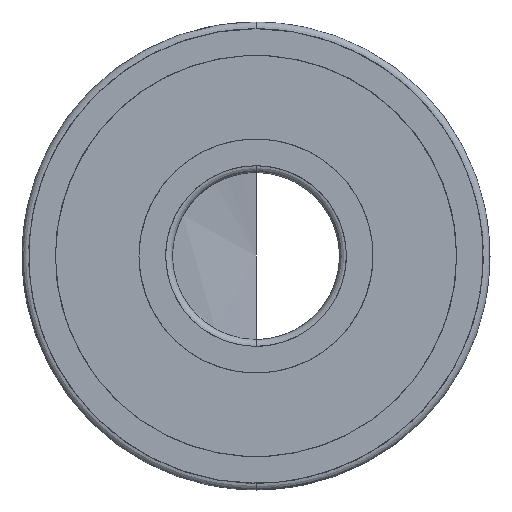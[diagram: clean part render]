
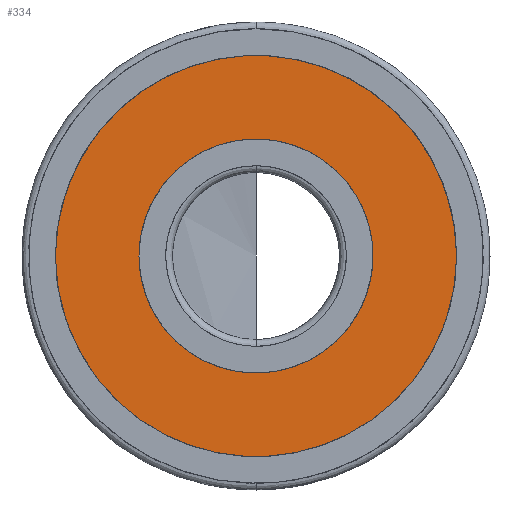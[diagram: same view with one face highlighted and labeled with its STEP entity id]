
A CAD part, front view. The second image highlights one B-rep face of the part: STEP entity #334.
In plain terms, the highlighted planar face has unit normal (0, -1, 0) as drawn and (-1, 0, 0) by its records, which use the part's own axes.
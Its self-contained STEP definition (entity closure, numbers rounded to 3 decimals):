
#18=FACE_BOUND('',#390,.T.);
#24=PLANE('',#1191);
#334=ADVANCED_FACE('',(#360,#18),#24,.T.);
#360=FACE_OUTER_BOUND('',#389,.T.);
#389=EDGE_LOOP('',(#468));
#390=EDGE_LOOP('',(#469));
#468=ORIENTED_EDGE('',*,*,#935,.T.);
#469=ORIENTED_EDGE('',*,*,#936,.T.);
#559=PCURVE('',#24,#650);
#560=PCURVE('',#24,#651);
#650=DEFINITIONAL_REPRESENTATION('',(#1013),#2848);
#651=DEFINITIONAL_REPRESENTATION('',(#1015),#2848);
#844=SURFACE_CURVE('',#1012,(#559),.PCURVE_S1.);
#845=SURFACE_CURVE('',#1014,(#560),.PCURVE_S1.);
#935=EDGE_CURVE('',#1105,#1105,#844,.T.);
#936=EDGE_CURVE('',#1106,#1106,#845,.T.);
#1012=(
BOUNDED_CURVE()
B_SPLINE_CURVE(2,(#2426,#2427,#2428,#2429,#2430,#2431,#2432,#2433,#2434),
 .UNSPECIFIED.,.T.,.F.)
B_SPLINE_CURVE_WITH_KNOTS((3,2,2,2,3),(-9.425,-7.854,
-6.283,-4.712,-3.142),.UNSPECIFIED.)
CURVE()
GEOMETRIC_REPRESENTATION_ITEM()
RATIONAL_B_SPLINE_CURVE((1.,0.707,1.,0.707,1.,0.707,
1.,0.707,1.))
REPRESENTATION_ITEM('')
);
#1013=(
BOUNDED_CURVE()
B_SPLINE_CURVE(2,(#2435,#2436,#2437,#2438,#2439,#2440,#2441,#2442,#2443),
 .UNSPECIFIED.,.T.,.F.)
B_SPLINE_CURVE_WITH_KNOTS((3,2,2,2,3),(-9.425,-7.854,
-6.283,-4.712,-3.142),.UNSPECIFIED.)
CURVE()
GEOMETRIC_REPRESENTATION_ITEM()
RATIONAL_B_SPLINE_CURVE((1.,0.707,1.,0.707,1.,0.707,
1.,0.707,1.))
REPRESENTATION_ITEM('')
);
#1014=(
BOUNDED_CURVE()
B_SPLINE_CURVE(2,(#2444,#2445,#2446,#2447,#2448,#2449,#2450,#2451,#2452),
 .UNSPECIFIED.,.T.,.F.)
B_SPLINE_CURVE_WITH_KNOTS((3,2,2,2,3),(-6.283,-4.712,
-3.142,-1.571,0.),.UNSPECIFIED.)
CURVE()
GEOMETRIC_REPRESENTATION_ITEM()
RATIONAL_B_SPLINE_CURVE((1.,0.707,1.,0.707,1.,0.707,
1.,0.707,1.))
REPRESENTATION_ITEM('')
);
#1015=(
BOUNDED_CURVE()
B_SPLINE_CURVE(2,(#2453,#2454,#2455,#2456,#2457,#2458,#2459,#2460,#2461),
 .UNSPECIFIED.,.T.,.F.)
B_SPLINE_CURVE_WITH_KNOTS((3,2,2,2,3),(-6.283,-4.712,
-3.142,-1.571,0.),.UNSPECIFIED.)
CURVE()
GEOMETRIC_REPRESENTATION_ITEM()
RATIONAL_B_SPLINE_CURVE((1.,0.707,1.,0.707,1.,0.707,
1.,0.707,1.))
REPRESENTATION_ITEM('')
);
#1105=VERTEX_POINT('',#2424);
#1106=VERTEX_POINT('',#2425);
#1191=AXIS2_PLACEMENT_3D('',#2423,#1203,$);
#1203=DIRECTION('',(-1.,0.,0.));
#2423=CARTESIAN_POINT('',(0.524,6.,6.));
#2424=CARTESIAN_POINT('',(0.524,-6.,0.));
#2425=CARTESIAN_POINT('',(0.524,3.5,0.));
#2426=CARTESIAN_POINT('',(0.524,-6.,0.));
#2427=CARTESIAN_POINT('',(0.524,-6.,6.));
#2428=CARTESIAN_POINT('',(0.524,0.,6.));
#2429=CARTESIAN_POINT('',(0.524,6.,6.));
#2430=CARTESIAN_POINT('',(0.524,6.,0.));
#2431=CARTESIAN_POINT('',(0.524,6.,-6.));
#2432=CARTESIAN_POINT('',(0.524,0.,-6.));
#2433=CARTESIAN_POINT('',(0.524,-6.,-6.));
#2434=CARTESIAN_POINT('',(0.524,-6.,0.));
#2435=CARTESIAN_POINT('',(0.5,1.));
#2436=CARTESIAN_POINT('',(0.,1.));
#2437=CARTESIAN_POINT('',(0.,0.5));
#2438=CARTESIAN_POINT('',(0.,0.));
#2439=CARTESIAN_POINT('',(0.5,0.));
#2440=CARTESIAN_POINT('',(1.,0.));
#2441=CARTESIAN_POINT('',(1.,0.5));
#2442=CARTESIAN_POINT('',(1.,1.));
#2443=CARTESIAN_POINT('',(0.5,1.));
#2444=CARTESIAN_POINT('',(0.524,3.5,0.));
#2445=CARTESIAN_POINT('',(0.524,3.5,3.5));
#2446=CARTESIAN_POINT('',(0.524,0.,3.5));
#2447=CARTESIAN_POINT('',(0.524,-3.5,3.5));
#2448=CARTESIAN_POINT('',(0.524,-3.5,0.));
#2449=CARTESIAN_POINT('',(0.524,-3.5,-3.5));
#2450=CARTESIAN_POINT('',(0.524,0.,-3.5));
#2451=CARTESIAN_POINT('',(0.524,3.5,-3.5));
#2452=CARTESIAN_POINT('',(0.524,3.5,0.));
#2453=CARTESIAN_POINT('',(0.5,0.208));
#2454=CARTESIAN_POINT('',(0.208,0.208));
#2455=CARTESIAN_POINT('',(0.208,0.5));
#2456=CARTESIAN_POINT('',(0.208,0.792));
#2457=CARTESIAN_POINT('',(0.5,0.792));
#2458=CARTESIAN_POINT('',(0.792,0.792));
#2459=CARTESIAN_POINT('',(0.792,0.5));
#2460=CARTESIAN_POINT('',(0.792,0.208));
#2461=CARTESIAN_POINT('',(0.5,0.208));
#2848=(
GEOMETRIC_REPRESENTATION_CONTEXT(2)
PARAMETRIC_REPRESENTATION_CONTEXT()
REPRESENTATION_CONTEXT('pspace','')
);
